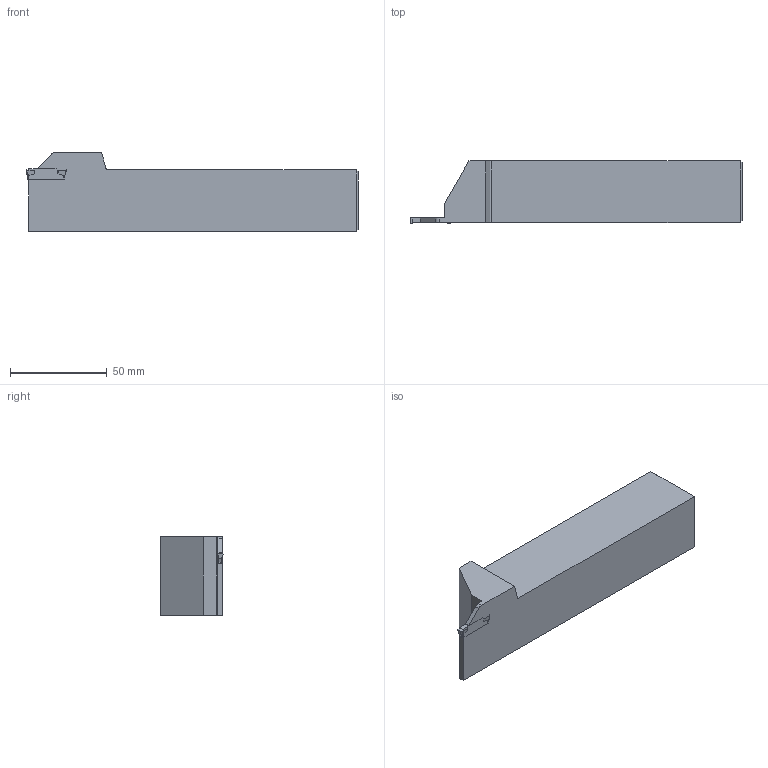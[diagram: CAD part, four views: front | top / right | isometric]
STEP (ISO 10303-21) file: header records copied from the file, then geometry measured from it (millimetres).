
FILE_DESCRIPTION(/* description */ (''),/* implementation_level */ '2;1');
FILE_NAME(/* name */ 'MGEHR20-3-HAAS_20200625.stp',/* time_stamp */ '2020-11-18T17:03:04+09:00',/* author */ (''),/* organization */ (''),/* preprocessor_version */ 'ST-DEVELOPER v11',/* originating_system */ 'SIEMENS UGS NX 6.0',/* authorisation */ '');
FILE_SCHEMA (('CONFIG_CONTROL_DESIGN'));
Length unit declared in the file: millimetre
Products named in the file (1): user1992za84
Bounding box: 171.45 x 32.1 x 40.75 mm (x, y, z)
Volume: 157233.8 mm3; surface area: 23276.9 mm2
Topology: 2 solids, 2 shells, 55 faces, 145 edges, 94 vertices
Faces by surface type: plane 40, cylinder 11, extrusion 4
Entity records: 1819 total; most frequent: CARTESIAN_POINT 365, ORIENTED_EDGE 290, DIRECTION 271, EDGE_CURVE 145, VECTOR 115, LINE 111, VERTEX_POINT 94, AXIS2_PLACEMENT_3D 78
